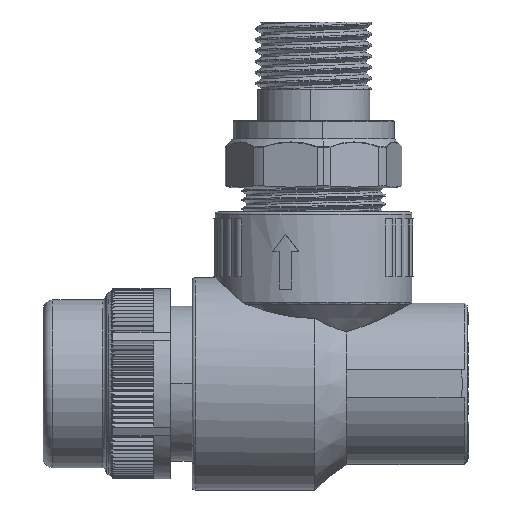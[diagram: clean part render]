
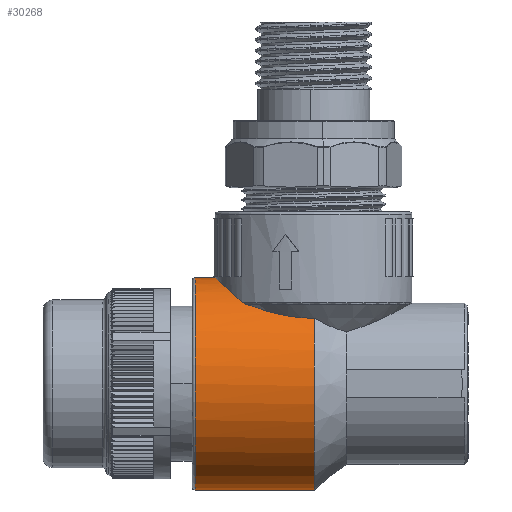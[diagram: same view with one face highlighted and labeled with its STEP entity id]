
A CAD part, left-side view. The second image highlights one B-rep face of the part: STEP entity #30268.
In plain terms, the highlighted cylindrical face has radius 19 mm (diameter 38 mm), a partial arc.
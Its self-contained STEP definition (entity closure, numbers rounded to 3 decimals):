
#1789 = DIRECTION ( 'NONE',  ( 0., 0., -1. ) ) ;
#3828 = CARTESIAN_POINT ( 'NONE',  ( -1.194, 45.062, 18.965 ) ) ;
#8495 = CARTESIAN_POINT ( 'NONE',  ( -14.712, 31.663, 12.024 ) ) ;
#9303 = LINE ( 'NONE', #59148, #75137 ) ;
#9824 = ORIENTED_EDGE ( 'NONE', *, *, #56755, .F. ) ;
#9826 = VERTEX_POINT ( 'NONE', #89908 ) ;
#9889 = CARTESIAN_POINT ( 'NONE',  ( -12.238, 40.149, 14.534 ) ) ;
#9906 = VECTOR ( 'NONE', #84683, 1000. ) ;
#10788 = VERTEX_POINT ( 'NONE', #38016 ) ;
#12217 = CARTESIAN_POINT ( 'NONE',  ( -7.843, 43.265, 17.314 ) ) ;
#13870 = ORIENTED_EDGE ( 'NONE', *, *, #60216, .T. ) ;
#14431 = VERTEX_POINT ( 'NONE', #77803 ) ;
#14595 = CARTESIAN_POINT ( 'NONE',  ( -14.909, 29.551, 11.78 ) ) ;
#15905 = ORIENTED_EDGE ( 'NONE', *, *, #44575, .T. ) ;
#17966 = EDGE_CURVE ( 'NONE', #21310, #91557, #69295, .T. ) ;
#18750 = CARTESIAN_POINT ( 'NONE',  ( -1.493, 45.039, 18.944 ) ) ;
#19937 = CARTESIAN_POINT ( 'NONE',  ( 0., 48.7, 0. ) ) ;
#21310 = VERTEX_POINT ( 'NONE', #31489 ) ;
#21559 = CARTESIAN_POINT ( 'NONE',  ( -13.314, 37.747, 13.562 ) ) ;
#23744 = DIRECTION ( 'NONE',  ( 0., -1., 0. ) ) ;
#25243 = CARTESIAN_POINT ( 'NONE',  ( -5.774, 44.136, 18.111 ) ) ;
#25690 = CARTESIAN_POINT ( 'NONE',  ( -6.31, 43.939, 17.93 ) ) ;
#27367 = VERTEX_POINT ( 'NONE', #48509 ) ;
#27835 = DIRECTION ( 'NONE',  ( 0., 0., 1. ) ) ;
#27904 = CARTESIAN_POINT ( 'NONE',  ( 0., 0., -19. ) ) ;
#28309 = FACE_OUTER_BOUND ( 'NONE', #35243, .T. ) ;
#29685 = CIRCLE ( 'NONE', #77275, 19. ) ;
#30268 = ADVANCED_FACE ( 'NONE', ( #28309 ), #42264, .T. ) ;
#30673 = EDGE_CURVE ( 'NONE', #27367, #10788, #65859, .T. ) ;
#31489 = CARTESIAN_POINT ( 'NONE',  ( 0., 45.1, 19. ) ) ;
#33598 = CARTESIAN_POINT ( 'NONE',  ( -8.809, 42.747, 16.843 ) ) ;
#34386 = ORIENTED_EDGE ( 'NONE', *, *, #17966, .F. ) ;
#34810 = CARTESIAN_POINT ( 'NONE',  ( 0., 0., 0. ) ) ;
#35243 = EDGE_LOOP ( 'NONE', ( #9824, #15905, #62105, #78715, #66050, #13870, #34386 ) ) ;
#35733 = DIRECTION ( 'NONE',  ( 0., 0., -1. ) ) ;
#38016 = CARTESIAN_POINT ( 'NONE',  ( -14.954, 27.4, 11.721 ) ) ;
#39187 = CARTESIAN_POINT ( 'NONE',  ( -0.297, 45.1, 19. ) ) ;
#39663 = CARTESIAN_POINT ( 'NONE',  ( -7.344, 43.504, 17.532 ) ) ;
#42264 = CYLINDRICAL_SURFACE ( 'NONE', #61902, 19. ) ;
#42961 = CARTESIAN_POINT ( 'NONE',  ( -14.151, 34.769, 12.68 ) ) ;
#43856 = CARTESIAN_POINT ( 'NONE',  ( -14.954, 27.4, 11.721 ) ) ;
#44456 = CARTESIAN_POINT ( 'NONE',  ( 0., 48.7, -19. ) ) ;
#44575 = EDGE_CURVE ( 'NONE', #9826, #60897, #77136, .T. ) ;
#48324 = DIRECTION ( 'NONE',  ( 0., -1., 0. ) ) ;
#48509 = CARTESIAN_POINT ( 'NONE',  ( -12.563, 39.619, 14.254 ) ) ;
#50416 = CARTESIAN_POINT ( 'NONE',  ( -12.563, 39.619, 14.254 ) ) ;
#50726 = CARTESIAN_POINT ( 'NONE',  ( 0., 27.4, 0. ) ) ;
#51329 = CARTESIAN_POINT ( 'NONE',  ( -14.957, 28.482, 11.717 ) ) ;
#51770 = CARTESIAN_POINT ( 'NONE',  ( -14.265, 34.255, 12.552 ) ) ;
#52242 = CARTESIAN_POINT ( 'NONE',  ( -12.451, 39.849, 14.352 ) ) ;
#54096 = CARTESIAN_POINT ( 'NONE',  ( -9.277, 42.466, 16.589 ) ) ;
#56755 = EDGE_CURVE ( 'NONE', #9826, #21310, #9303, .T. ) ;
#57872 = CARTESIAN_POINT ( 'NONE',  ( -13.901, 35.78, 12.954 ) ) ;
#59148 = CARTESIAN_POINT ( 'NONE',  ( 0., 0., 19. ) ) ;
#59250 = CARTESIAN_POINT ( 'NONE',  ( -12.563, 39.619, 14.254 ) ) ;
#60216 = EDGE_CURVE ( 'NONE', #27367, #91557, #82501, .T. ) ;
#60650 = CARTESIAN_POINT ( 'NONE',  ( -2.381, 44.948, 18.86 ) ) ;
#60897 = VERTEX_POINT ( 'NONE', #44456 ) ;
#61484 = EDGE_CURVE ( 'NONE', #60897, #14431, #63316, .T. ) ;
#61902 = AXIS2_PLACEMENT_3D ( 'NONE', #34810, #63259, #35733 ) ;
#62053 = CARTESIAN_POINT ( 'NONE',  ( -11.419, 40.931, 15.216 ) ) ;
#62105 = ORIENTED_EDGE ( 'NONE', *, *, #61484, .T. ) ;
#63259 = DIRECTION ( 'NONE',  ( 0., -1., 0. ) ) ;
#63316 = LINE ( 'NONE', #27904, #9906 ) ;
#65174 = DIRECTION ( 'NONE',  ( 0., -1., 0. ) ) ;
#65859 = B_SPLINE_CURVE_WITH_KNOTS ( 'NONE', 3,
 ( #50416, #78800, #21559, #85782, #57872, #42961, #51770, #79234, #8495, #14595, #51329, #43856 ),
 .UNSPECIFIED., .F., .F.,
 ( 4, 2, 2, 2, 2, 4 ),
 ( 0.003, 0.006, 0.008, 0.01, 0.013, 0.016 ),
 .UNSPECIFIED. ) ;
#66050 = ORIENTED_EDGE ( 'NONE', *, *, #30673, .F. ) ;
#67643 = CARTESIAN_POINT ( 'NONE',  ( -0.595, 45.092, 18.993 ) ) ;
#69016 = CARTESIAN_POINT ( 'NONE',  ( 0., 45.1, 19. ) ) ;
#69295 = B_SPLINE_CURVE_WITH_KNOTS ( 'NONE', 3,
 ( #69016, #39187, #67643, #3828, #18750, #60650, #89031, #75968, #89484, #25243, #25690, #39663, #12217, #33598, #54096, #75507, #62053, #90418 ),
 .UNSPECIFIED., .F., .F.,
 ( 4, 2, 2, 2, 2, 2, 2, 2, 4 ),
 ( 0.031, 0.031, 0.032, 0.034, 0.036, 0.038, 0.039, 0.041, 0.045 ),
 .UNSPECIFIED. ) ;
#73664 = CARTESIAN_POINT ( 'NONE',  ( -12.315, 40.054, 14.469 ) ) ;
#75000 = EDGE_CURVE ( 'NONE', #10788, #14431, #29685, .T. ) ;
#75137 = VECTOR ( 'NONE', #23744, 1000. ) ;
#75507 = CARTESIAN_POINT ( 'NONE',  ( -10.614, 41.58, 15.793 ) ) ;
#75968 = CARTESIAN_POINT ( 'NONE',  ( -4.106, 44.624, 18.56 ) ) ;
#77136 = CIRCLE ( 'NONE', #83154, 19. ) ;
#77275 = AXIS2_PLACEMENT_3D ( 'NONE', #50726, #65174, #1789 ) ;
#77803 = CARTESIAN_POINT ( 'NONE',  ( 0., 27.4, -19. ) ) ;
#78715 = ORIENTED_EDGE ( 'NONE', *, *, #75000, .F. ) ;
#78800 = CARTESIAN_POINT ( 'NONE',  ( -12.966, 38.697, 13.899 ) ) ;
#79234 = CARTESIAN_POINT ( 'NONE',  ( -14.564, 32.706, 12.206 ) ) ;
#81084 = CARTESIAN_POINT ( 'NONE',  ( -12.153, 40.231, 14.605 ) ) ;
#81524 = CARTESIAN_POINT ( 'NONE',  ( -12.153, 40.231, 14.605 ) ) ;
#82501 = B_SPLINE_CURVE_WITH_KNOTS ( 'NONE', 3,
 ( #59250, #87626, #52242, #73664, #9889, #81084 ),
 .UNSPECIFIED., .F., .F.,
 ( 4, 2, 4 ),
 ( 0., 0., 0.001 ),
 .UNSPECIFIED. ) ;
#83154 = AXIS2_PLACEMENT_3D ( 'NONE', #19937, #48324, #27835 ) ;
#84683 = DIRECTION ( 'NONE',  ( 0., -1., 0. ) ) ;
#85782 = CARTESIAN_POINT ( 'NONE',  ( -13.763, 36.277, 13.1 ) ) ;
#87626 = CARTESIAN_POINT ( 'NONE',  ( -12.511, 39.739, 14.3 ) ) ;
#89031 = CARTESIAN_POINT ( 'NONE',  ( -2.962, 44.859, 18.777 ) ) ;
#89484 = CARTESIAN_POINT ( 'NONE',  ( -4.668, 44.48, 18.427 ) ) ;
#89908 = CARTESIAN_POINT ( 'NONE',  ( 0., 48.7, 19. ) ) ;
#90418 = CARTESIAN_POINT ( 'NONE',  ( -12.153, 40.231, 14.605 ) ) ;
#91557 = VERTEX_POINT ( 'NONE', #81524 ) ;
